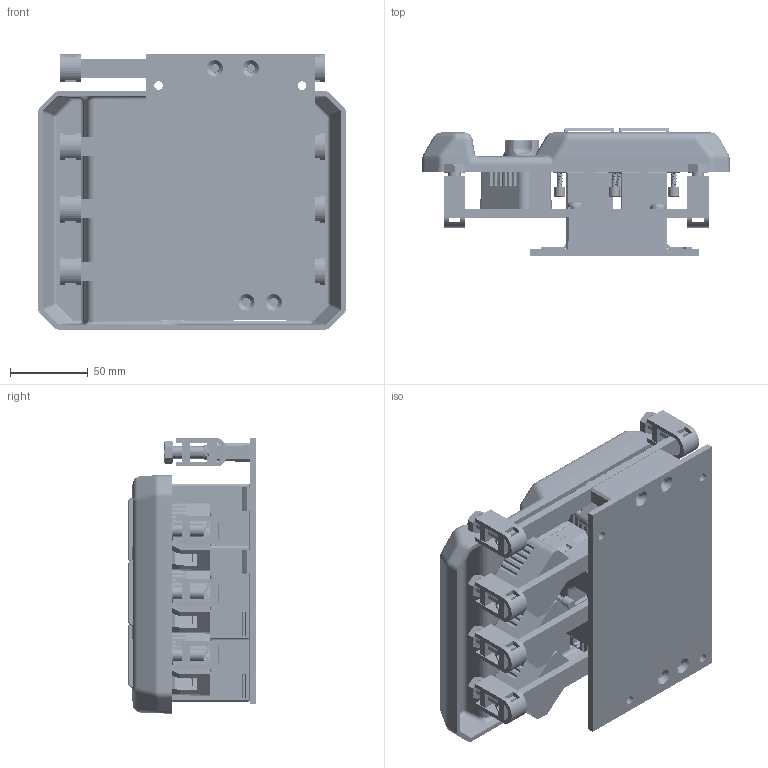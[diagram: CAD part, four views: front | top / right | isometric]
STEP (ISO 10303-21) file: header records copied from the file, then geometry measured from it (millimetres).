
FILE_DESCRIPTION (( 'STEP AP214' ), '1' );
FILE_NAME ('ASKD21.3_kpl.STEP', '2011-11-11T09:14:09', ( ' ' ), ( '' ), 'SwSTEP 2.0', 'SolidWorks 2010', '' );
FILE_SCHEMA (( 'AUTOMOTIVE_DESIGN' ));
Length unit declared in the file: millimetre
Products named in the file (21): Sechskantschraube DIN 933 M8x20; Flachkopfschraube DIN 85 M5 x 8; Senkschraube DIN 963 4.8 VG M 5 x 16; Erdungsschiene_ASKD21.3; Distanzhalter_EASKD21.3; Erdungsschiene; Sicherungselement; Linsenschraube DIN 7985 4.8 VZ M 5 x 10; MBS_WN-003_04_Klemme_WN-003_02; Isolierschutzkappe; Kabelklemme_Siemens; Plombierplatte_C; EASKD21.3; Grundplatte_EASKD21.3; ASKD21.3_kpl; ASK21_3_11; ASK21_3_11_Gehäuseoberteil; ASK21_3_kpl; Plastite_Schraube_30_mit-Gewinde; Verschlussklappe_28mm; Fusswinkel_1,5
Assembly tree (52 placements, depth 3):
  ASKD21.3_kpl
    Sechskantschraube DIN 933 M8x20  x8
    Kabelklemme_Siemens  x8
    Flachkopfschraube DIN 85 M5 x 8  x2
    Senkschraube DIN 963 4.8 VG M 5 x 16  x2
    Plombierplatte_C  x3
    Erdungsschiene_ASKD21.3
    Distanzhalter_EASKD21.3
    Sicherungselement  x3
    ASK21_3_kpl  x3
      Linsenschraube DIN 7985 4.8 VZ M 5 x 10
      MBS_WN-003_04_Klemme_WN-003_02
      Verschlussklappe_28mm
      Plastite_Schraube_30_mit-Gewinde
      Fusswinkel_1,5
      ASK21_3_11_Gehäuseoberteil
      ASK21_3_11
      Isolierschutzkappe
    Erdungsschiene  x3
    EASKD21.3
    Grundplatte_EASKD21.3
Bounding box: 197.5 x 81.8 x 176.5 mm (x, y, z)
Volume: 720443.1 mm3; surface area: 351440.9 mm2
Topology: 81 solids, 81 shells, 7740 faces, 20279 edges, 12926 vertices
Faces by surface type: plane 4772, cylinder 1254, bspline 1210, cone 296, torus 116, sphere 92
Entity records: 102233 total; most frequent: CARTESIAN_POINT 44222, ORIENTED_EDGE 12654, DIRECTION 10040, EDGE_CURVE 6327, LINE 4362, VECTOR 4362, VERTEX_POINT 4060, AXIS2_PLACEMENT_3D 2839
